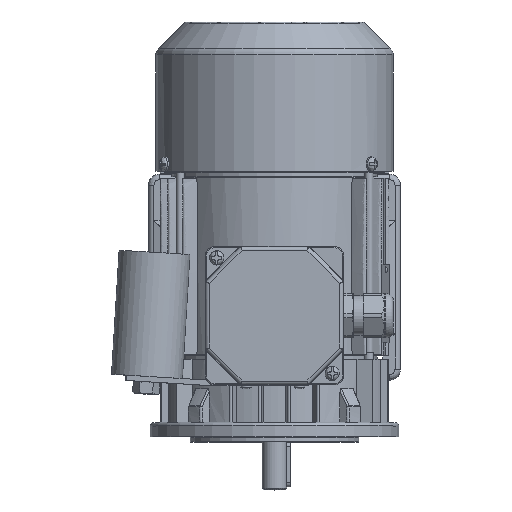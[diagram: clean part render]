
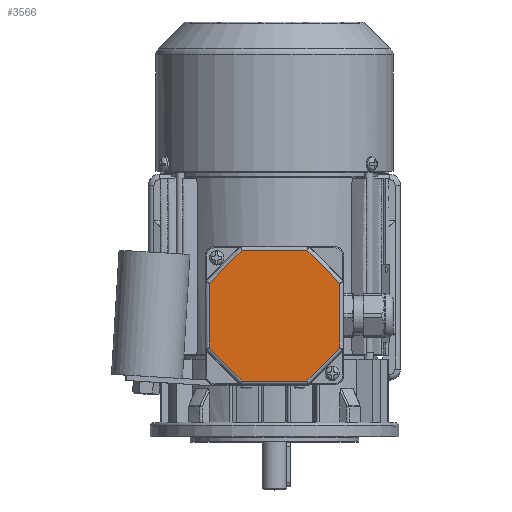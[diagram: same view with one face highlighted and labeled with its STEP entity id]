
A CAD part, top view. The second image highlights one B-rep face of the part: STEP entity #3566.
In plain terms, the highlighted planar face has unit normal (0, 0, 1).
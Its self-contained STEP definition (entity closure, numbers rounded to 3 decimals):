
#3566 = ADVANCED_FACE( '', ( #9081 ), #9082, .T. );
#9081 = FACE_OUTER_BOUND( '', #19189, .T. );
#9082 = PLANE( '', #19190 );
#19189 = EDGE_LOOP( '', ( #62013, #62014, #62015, #62016, #62017, #62018, #62019, #62020 ) );
#19190 = AXIS2_PLACEMENT_3D( '', #62021, #62022, #62023 );
#62013 = ORIENTED_EDGE( '', *, *, #84251, .T. );
#62014 = ORIENTED_EDGE( '', *, *, #84252, .T. );
#62015 = ORIENTED_EDGE( '', *, *, #84253, .T. );
#62016 = ORIENTED_EDGE( '', *, *, #84254, .T. );
#62017 = ORIENTED_EDGE( '', *, *, #84255, .T. );
#62018 = ORIENTED_EDGE( '', *, *, #84256, .T. );
#62019 = ORIENTED_EDGE( '', *, *, #84257, .T. );
#62020 = ORIENTED_EDGE( '', *, *, #84258, .T. );
#62021 = CARTESIAN_POINT( '', ( -39., 39., 12. ) );
#62022 = DIRECTION( '', ( 0., 0., 1. ) );
#62023 = DIRECTION( '', ( 1., 0., 0. ) );
#84251 = EDGE_CURVE( '', #93935, #93936, #93937, .F. );
#84252 = EDGE_CURVE( '', #93936, #93938, #93939, .T. );
#84253 = EDGE_CURVE( '', #93938, #93940, #93941, .F. );
#84254 = EDGE_CURVE( '', #93940, #93942, #93943, .T. );
#84255 = EDGE_CURVE( '', #93942, #93944, #93945, .F. );
#84256 = EDGE_CURVE( '', #93944, #93946, #93947, .T. );
#84257 = EDGE_CURVE( '', #93946, #93948, #93949, .F. );
#84258 = EDGE_CURVE( '', #93948, #93935, #93950, .T. );
#93935 = VERTEX_POINT( '', #109476 );
#93936 = VERTEX_POINT( '', #109477 );
#93937 = LINE( '', #109478, #109479 );
#93938 = VERTEX_POINT( '', #109480 );
#93939 = LINE( '', #109481, #109482 );
#93940 = VERTEX_POINT( '', #109483 );
#93941 = LINE( '', #109484, #109485 );
#93942 = VERTEX_POINT( '', #109486 );
#93943 = LINE( '', #109487, #109488 );
#93944 = VERTEX_POINT( '', #109489 );
#93945 = LINE( '', #109490, #109491 );
#93946 = VERTEX_POINT( '', #109492 );
#93947 = LINE( '', #109493, #109494 );
#93948 = VERTEX_POINT( '', #109495 );
#93949 = LINE( '', #109496, #109497 );
#93950 = LINE( '', #109498, #109499 );
#109476 = CARTESIAN_POINT( '', ( 36.825, -18.255, 12. ) );
#109477 = CARTESIAN_POINT( '', ( 36.825, 18.255, 12. ) );
#109478 = CARTESIAN_POINT( '', ( 36.825, 19.069, 12. ) );
#109479 = VECTOR( '', #152322, 1000. );
#109480 = CARTESIAN_POINT( '', ( 18.255, 36.825, 12. ) );
#109481 = CARTESIAN_POINT( '', ( 17.679, 37.401, 12. ) );
#109482 = VECTOR( '', #152323, 1000. );
#109483 = CARTESIAN_POINT( '', ( -18.255, 36.825, 12. ) );
#109484 = CARTESIAN_POINT( '', ( -19.069, 36.825, 12. ) );
#109485 = VECTOR( '', #152324, 1000. );
#109486 = CARTESIAN_POINT( '', ( -36.825, 18.255, 12. ) );
#109487 = CARTESIAN_POINT( '', ( -37.401, 17.679, 12. ) );
#109488 = VECTOR( '', #152325, 1000. );
#109489 = CARTESIAN_POINT( '', ( -36.825, -18.255, 12. ) );
#109490 = CARTESIAN_POINT( '', ( -36.825, -19.069, 12. ) );
#109491 = VECTOR( '', #152326, 1000. );
#109492 = CARTESIAN_POINT( '', ( -18.255, -36.825, 12. ) );
#109493 = CARTESIAN_POINT( '', ( -17.679, -37.401, 12. ) );
#109494 = VECTOR( '', #152327, 1000. );
#109495 = CARTESIAN_POINT( '', ( 18.255, -36.825, 12. ) );
#109496 = CARTESIAN_POINT( '', ( 19.069, -36.825, 12. ) );
#109497 = VECTOR( '', #152328, 1000. );
#109498 = CARTESIAN_POINT( '', ( 37.401, -17.679, 12. ) );
#109499 = VECTOR( '', #152329, 1000. );
#152322 = DIRECTION( '', ( 0., -1., 0. ) );
#152323 = DIRECTION( '', ( -0.707, 0.707, 0. ) );
#152324 = DIRECTION( '', ( 1., 0., 0. ) );
#152325 = DIRECTION( '', ( -0.707, -0.707, 0. ) );
#152326 = DIRECTION( '', ( 0., 1., 0. ) );
#152327 = DIRECTION( '', ( 0.707, -0.707, 0. ) );
#152328 = DIRECTION( '', ( -1., 0., 0. ) );
#152329 = DIRECTION( '', ( 0.707, 0.707, 0. ) );
